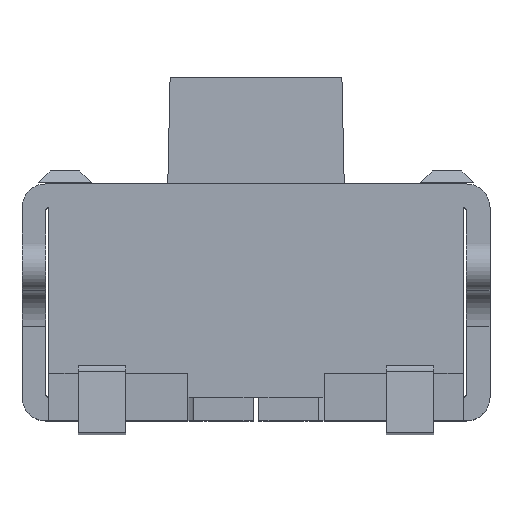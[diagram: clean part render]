
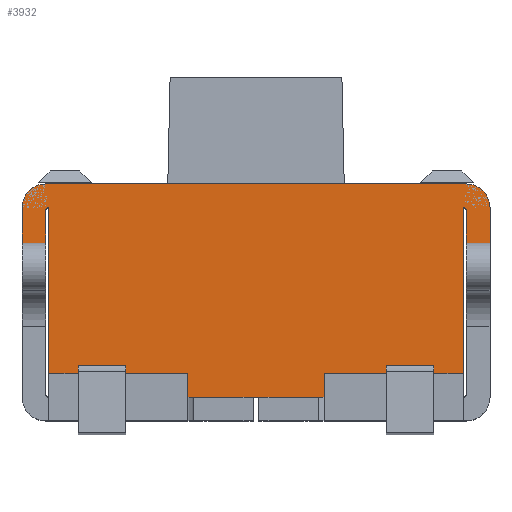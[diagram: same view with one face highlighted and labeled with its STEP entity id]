
A CAD part, top view. The second image highlights one B-rep face of the part: STEP entity #3932.
In plain terms, the highlighted planar face has unit normal (0, 0, 1).
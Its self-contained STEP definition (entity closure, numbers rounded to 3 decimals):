
#568=CARTESIAN_POINT('',(3.525,1.8,0.));
#569=DIRECTION('',(0.,0.,1.));
#570=DIRECTION('',(1.,0.,0.));
#571=AXIS2_PLACEMENT_3D('',#568,#569,#570);
#595=DIRECTION('',(0.,1.,0.));
#596=VECTOR('',#595,0.3);
#597=CARTESIAN_POINT('',(3.725,1.5,0.));
#598=LINE('',#597,#596);
#640=DIRECTION('',(1.,0.,0.));
#641=VECTOR('',#640,3.55);
#642=CARTESIAN_POINT('',(-0.025,2.,0.));
#643=LINE('',#642,#641);
#644=DIRECTION('',(1.,0.,0.));
#645=VECTOR('',#644,0.2);
#646=CARTESIAN_POINT('',(3.525,1.5,0.));
#647=LINE('',#646,#645);
#648=DIRECTION('',(0.,-1.,0.));
#649=VECTOR('',#648,1.4);
#650=CARTESIAN_POINT('',(3.5,1.8,0.));
#651=LINE('',#650,#649);
#652=DIRECTION('',(-1.,0.,0.));
#653=VECTOR('',#652,0.25);
#654=CARTESIAN_POINT('',(3.5,0.4,0.));
#655=LINE('',#654,#653);
#656=DIRECTION('',(0.,-1.,0.));
#657=VECTOR('',#656,0.066);
#658=CARTESIAN_POINT('',(2.85,0.466,0.));
#659=LINE('',#658,#657);
#660=DIRECTION('',(-1.,0.,0.));
#661=VECTOR('',#660,0.525);
#662=CARTESIAN_POINT('',(2.85,0.4,0.));
#663=LINE('',#662,#661);
#664=DIRECTION('',(-1.,0.,0.));
#665=VECTOR('',#664,0.05);
#666=CARTESIAN_POINT('',(2.325,0.2,0.));
#667=LINE('',#666,#665);
#668=DIRECTION('',(-1.,0.,0.));
#669=VECTOR('',#668,0.05);
#670=CARTESIAN_POINT('',(1.775,0.2,0.));
#671=LINE('',#670,#669);
#672=DIRECTION('',(-1.,0.,0.));
#673=VECTOR('',#672,0.5);
#674=CARTESIAN_POINT('',(1.725,0.2,0.));
#675=LINE('',#674,#673);
#676=DIRECTION('',(-1.,0.,0.));
#677=VECTOR('',#676,0.05);
#678=CARTESIAN_POINT('',(1.225,0.2,0.));
#679=LINE('',#678,#677);
#680=DIRECTION('',(0.,1.,0.));
#681=VECTOR('',#680,0.2);
#682=CARTESIAN_POINT('',(1.175,0.2,0.));
#683=LINE('',#682,#681);
#684=DIRECTION('',(-1.,0.,0.));
#685=VECTOR('',#684,0.525);
#686=CARTESIAN_POINT('',(1.175,0.4,0.));
#687=LINE('',#686,#685);
#688=DIRECTION('',(0.,-1.,0.));
#689=VECTOR('',#688,0.066);
#690=CARTESIAN_POINT('',(0.25,0.466,0.));
#691=LINE('',#690,#689);
#692=DIRECTION('',(-1.,0.,0.));
#693=VECTOR('',#692,0.25);
#694=CARTESIAN_POINT('',(0.25,0.4,0.));
#695=LINE('',#694,#693);
#696=DIRECTION('',(0.,1.,0.));
#697=VECTOR('',#696,1.4);
#698=CARTESIAN_POINT('',(0.,0.4,0.));
#699=LINE('',#698,#697);
#700=DIRECTION('',(1.,0.,0.));
#701=VECTOR('',#700,0.2);
#702=CARTESIAN_POINT('',(-0.225,1.5,0.));
#703=LINE('',#702,#701);
#720=DIRECTION('',(0.,1.,0.));
#721=VECTOR('',#720,0.275);
#722=CARTESIAN_POINT('',(-0.025,1.5,0.));
#723=LINE('',#722,#721);
#777=CARTESIAN_POINT('',(0.,1.775,0.));
#778=DIRECTION('',(0.,0.,1.));
#779=DIRECTION('',(0.,1.,0.));
#780=AXIS2_PLACEMENT_3D('',#777,#778,#779);
#904=CARTESIAN_POINT('',(-0.025,1.8,0.));
#905=DIRECTION('',(0.,0.,1.));
#906=DIRECTION('',(0.,1.,0.));
#907=AXIS2_PLACEMENT_3D('',#904,#905,#906);
#974=DIRECTION('',(0.,-1.,0.));
#975=VECTOR('',#974,0.3);
#976=CARTESIAN_POINT('',(-0.225,1.8,0.));
#977=LINE('',#976,#975);
#1147=DIRECTION('',(0.,-1.,0.));
#1148=VECTOR('',#1147,0.066);
#1149=CARTESIAN_POINT('',(0.65,0.466,0.));
#1150=LINE('',#1149,#1148);
#1193=DIRECTION('',(1.,0.,0.));
#1194=VECTOR('',#1193,0.4);
#1195=CARTESIAN_POINT('',(0.25,0.466,0.));
#1196=LINE('',#1195,#1194);
#1598=DIRECTION('',(1.,0.,0.));
#1599=VECTOR('',#1598,0.5);
#1600=CARTESIAN_POINT('',(1.775,0.2,0.));
#1601=LINE('',#1600,#1599);
#1938=DIRECTION('',(0.,-1.,0.));
#1939=VECTOR('',#1938,0.275);
#1940=CARTESIAN_POINT('',(3.525,1.775,0.));
#1941=LINE('',#1940,#1939);
#2015=CARTESIAN_POINT('',(3.5,1.775,0.));
#2016=DIRECTION('',(0.,0.,1.));
#2017=DIRECTION('',(1.,0.,0.));
#2018=AXIS2_PLACEMENT_3D('',#2015,#2016,#2017);
#2032=DIRECTION('',(0.,1.,0.));
#2033=VECTOR('',#2032,0.2);
#2034=CARTESIAN_POINT('',(2.325,0.2,0.));
#2035=LINE('',#2034,#2033);
#2052=DIRECTION('',(0.,-1.,0.));
#2053=VECTOR('',#2052,0.066);
#2054=CARTESIAN_POINT('',(3.25,0.466,0.));
#2055=LINE('',#2054,#2053);
#2106=DIRECTION('',(1.,0.,0.));
#2107=VECTOR('',#2106,0.4);
#2108=CARTESIAN_POINT('',(2.85,0.466,0.));
#2109=LINE('',#2108,#2107);
#2268=CARTESIAN_POINT('',(1.175,0.2,0.));
#2269=VERTEX_POINT('',#2268);
#2270=CARTESIAN_POINT('',(1.225,0.2,0.));
#2271=VERTEX_POINT('',#2270);
#2314=CARTESIAN_POINT('',(1.725,0.2,0.));
#2315=VERTEX_POINT('',#2314);
#2316=CARTESIAN_POINT('',(1.775,0.2,0.));
#2317=VERTEX_POINT('',#2316);
#2372=CARTESIAN_POINT('',(2.275,0.2,0.));
#2373=VERTEX_POINT('',#2372);
#2374=CARTESIAN_POINT('',(2.325,0.2,0.));
#2375=VERTEX_POINT('',#2374);
#2416=CARTESIAN_POINT('',(3.5,0.4,0.));
#2417=CARTESIAN_POINT('',(3.25,0.4,0.));
#2418=VERTEX_POINT('',#2416);
#2419=VERTEX_POINT('',#2417);
#2420=CARTESIAN_POINT('',(3.25,0.466,0.));
#2421=VERTEX_POINT('',#2420);
#2422=CARTESIAN_POINT('',(2.85,0.466,0.));
#2423=VERTEX_POINT('',#2422);
#2424=CARTESIAN_POINT('',(2.85,0.4,0.));
#2425=VERTEX_POINT('',#2424);
#2426=CARTESIAN_POINT('',(2.325,0.4,0.));
#2427=VERTEX_POINT('',#2426);
#2428=CARTESIAN_POINT('',(1.175,0.4,0.));
#2429=VERTEX_POINT('',#2428);
#2430=CARTESIAN_POINT('',(0.65,0.4,0.));
#2431=VERTEX_POINT('',#2430);
#2432=CARTESIAN_POINT('',(0.65,0.466,0.));
#2433=VERTEX_POINT('',#2432);
#2434=CARTESIAN_POINT('',(0.25,0.466,0.));
#2435=VERTEX_POINT('',#2434);
#2436=CARTESIAN_POINT('',(0.25,0.4,0.));
#2437=VERTEX_POINT('',#2436);
#2438=CARTESIAN_POINT('',(0.,0.4,0.));
#2439=VERTEX_POINT('',#2438);
#2801=CARTESIAN_POINT('',(3.525,1.775,0.));
#2802=CARTESIAN_POINT('',(3.525,1.5,0.));
#2803=VERTEX_POINT('',#2801);
#2804=VERTEX_POINT('',#2802);
#2805=CARTESIAN_POINT('',(3.725,1.8,0.));
#2806=CARTESIAN_POINT('',(3.525,2.,0.));
#2807=VERTEX_POINT('',#2805);
#2808=VERTEX_POINT('',#2806);
#2809=CARTESIAN_POINT('',(3.725,1.5,0.));
#2810=VERTEX_POINT('',#2809);
#2811=CARTESIAN_POINT('',(0.,1.8,0.));
#2812=CARTESIAN_POINT('',(-0.025,1.775,0.));
#2813=VERTEX_POINT('',#2811);
#2814=VERTEX_POINT('',#2812);
#2815=CARTESIAN_POINT('',(-0.025,1.5,0.));
#2816=VERTEX_POINT('',#2815);
#2817=CARTESIAN_POINT('',(-0.225,1.8,0.));
#2818=CARTESIAN_POINT('',(-0.225,1.5,0.));
#2819=VERTEX_POINT('',#2817);
#2820=VERTEX_POINT('',#2818);
#2821=CARTESIAN_POINT('',(-0.025,2.,0.));
#2822=VERTEX_POINT('',#2821);
#2823=CARTESIAN_POINT('',(3.5,1.8,0.));
#2824=VERTEX_POINT('',#2823);
#3869=CARTESIAN_POINT('',(1.75,0.7,0.));
#3870=DIRECTION('',(0.,0.,1.));
#3871=DIRECTION('',(1.,0.,0.));
#3872=AXIS2_PLACEMENT_3D('',#3869,#3870,#3871);
#3873=PLANE('',#3872);
#3874=ORIENTED_EDGE('',*,*,#3541,.T.);
#3875=ORIENTED_EDGE('',*,*,#3804,.F.);
#3876=ORIENTED_EDGE('',*,*,#3834,.F.);
#3878=ORIENTED_EDGE('',*,*,#3877,.F.);
#3880=ORIENTED_EDGE('',*,*,#3879,.F.);
#3882=ORIENTED_EDGE('',*,*,#3881,.T.);
#3883=ORIENTED_EDGE('',*,*,#3115,.T.);
#3885=ORIENTED_EDGE('',*,*,#3884,.T.);
#3887=ORIENTED_EDGE('',*,*,#3886,.F.);
#3889=ORIENTED_EDGE('',*,*,#3888,.F.);
#3891=ORIENTED_EDGE('',*,*,#3890,.T.);
#3893=ORIENTED_EDGE('',*,*,#3892,.T.);
#3895=ORIENTED_EDGE('',*,*,#3894,.F.);
#3897=ORIENTED_EDGE('',*,*,#3896,.T.);
#3899=ORIENTED_EDGE('',*,*,#3898,.F.);
#3901=ORIENTED_EDGE('',*,*,#3900,.T.);
#3903=ORIENTED_EDGE('',*,*,#3902,.T.);
#3905=ORIENTED_EDGE('',*,*,#3904,.T.);
#3907=ORIENTED_EDGE('',*,*,#3906,.T.);
#3909=ORIENTED_EDGE('',*,*,#3908,.T.);
#3911=ORIENTED_EDGE('',*,*,#3910,.F.);
#3913=ORIENTED_EDGE('',*,*,#3912,.F.);
#3915=ORIENTED_EDGE('',*,*,#3914,.T.);
#3917=ORIENTED_EDGE('',*,*,#3916,.T.);
#3919=ORIENTED_EDGE('',*,*,#3918,.T.);
#3921=ORIENTED_EDGE('',*,*,#3920,.T.);
#3923=ORIENTED_EDGE('',*,*,#3922,.F.);
#3925=ORIENTED_EDGE('',*,*,#3924,.F.);
#3927=ORIENTED_EDGE('',*,*,#3926,.F.);
#3929=ORIENTED_EDGE('',*,*,#3928,.F.);
#3930=EDGE_LOOP('',(#3874,#3875,#3876,#3878,#3880,#3882,#3883,#3885,#3887,#3889,
#3891,#3893,#3895,#3897,#3899,#3901,#3903,#3905,#3907,#3909,#3911,#3913,#3915,
#3917,#3919,#3921,#3923,#3925,#3927,#3929));
#3931=FACE_OUTER_BOUND('',#3930,.F.);
#572=CIRCLE('',#571,0.2);
#781=CIRCLE('',#780,0.025);
#908=CIRCLE('',#907,0.2);
#2019=CIRCLE('',#2018,0.025);
#3115=EDGE_CURVE('',#2824,#2418,#651,.T.);
#3541=EDGE_CURVE('',#2822,#2808,#643,.T.);
#3804=EDGE_CURVE('',#2807,#2808,#572,.T.);
#3834=EDGE_CURVE('',#2810,#2807,#598,.T.);
#3877=EDGE_CURVE('',#2804,#2810,#647,.T.);
#3879=EDGE_CURVE('',#2803,#2804,#1941,.T.);
#3881=EDGE_CURVE('',#2803,#2824,#2019,.T.);
#3884=EDGE_CURVE('',#2418,#2419,#655,.T.);
#3886=EDGE_CURVE('',#2421,#2419,#2055,.T.);
#3888=EDGE_CURVE('',#2423,#2421,#2109,.T.);
#3890=EDGE_CURVE('',#2423,#2425,#659,.T.);
#3892=EDGE_CURVE('',#2425,#2427,#663,.T.);
#3894=EDGE_CURVE('',#2375,#2427,#2035,.T.);
#3896=EDGE_CURVE('',#2375,#2373,#667,.T.);
#3898=EDGE_CURVE('',#2317,#2373,#1601,.T.);
#3900=EDGE_CURVE('',#2317,#2315,#671,.T.);
#3902=EDGE_CURVE('',#2315,#2271,#675,.T.);
#3904=EDGE_CURVE('',#2271,#2269,#679,.T.);
#3906=EDGE_CURVE('',#2269,#2429,#683,.T.);
#3908=EDGE_CURVE('',#2429,#2431,#687,.T.);
#3910=EDGE_CURVE('',#2433,#2431,#1150,.T.);
#3912=EDGE_CURVE('',#2435,#2433,#1196,.T.);
#3914=EDGE_CURVE('',#2435,#2437,#691,.T.);
#3916=EDGE_CURVE('',#2437,#2439,#695,.T.);
#3918=EDGE_CURVE('',#2439,#2813,#699,.T.);
#3920=EDGE_CURVE('',#2813,#2814,#781,.T.);
#3922=EDGE_CURVE('',#2816,#2814,#723,.T.);
#3924=EDGE_CURVE('',#2820,#2816,#703,.T.);
#3926=EDGE_CURVE('',#2819,#2820,#977,.T.);
#3928=EDGE_CURVE('',#2822,#2819,#908,.T.);
#3932=ADVANCED_FACE('',(#3931),#3873,.T.);
